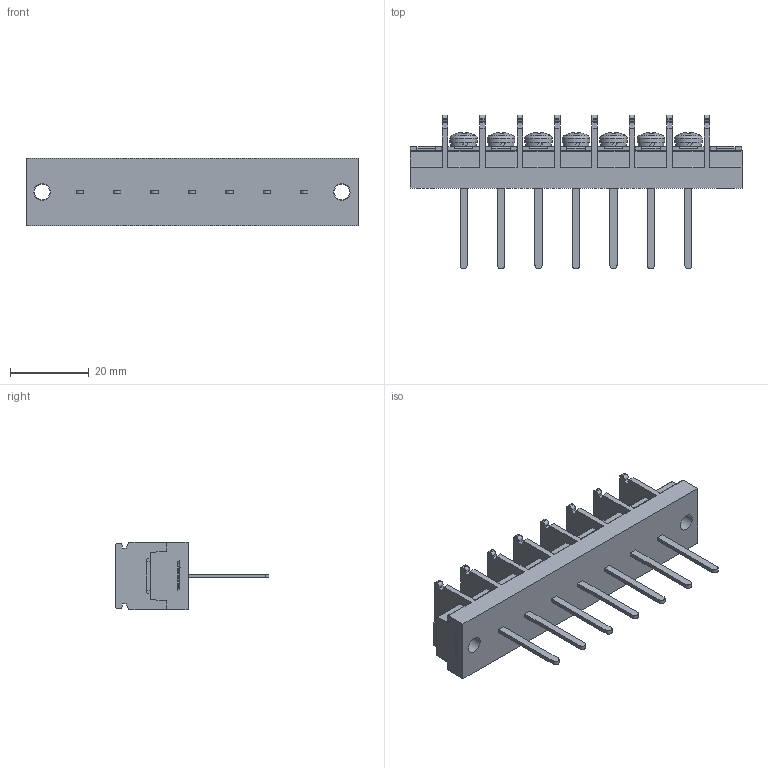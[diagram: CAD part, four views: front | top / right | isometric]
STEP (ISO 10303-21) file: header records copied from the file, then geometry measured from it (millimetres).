
FILE_DESCRIPTION(/* description */ ('Alibre Inc.'),/* implementation_level */ '2;1');
FILE_NAME(/* name */ 'export-54783C2D-5A35-4323-BA3F-5A7B78BFE67D',/* time_stamp */ '2021-02-02T11:22:54+09:00',/* author */ (''),/* organization */ (''),/* preprocessor_version */ 'ST-DEVELOPER v17',/* originating_system */ 'Alibre',/* authorisation */ '');
FILE_SCHEMA (('CONFIG_CONTROL_DESIGN'));
Length unit declared in the file: millimetre
Bounding box: 84.2 x 39 x 17 mm (x, y, z)
Volume: 14968 mm3; surface area: 10209.4 mm2
Topology: 1 solids, 8 shells, 1007 faces, 2759 edges, 1833 vertices
Faces by surface type: plane 722, cylinder 125, bspline 104, cone 35, torus 14, sphere 7
Full cylindrical faces by diameter (mm): 4 x16, 4.2 x2, 6.5 x7, 7 x7
Entity records: 30687 total; most frequent: CARTESIAN_POINT 6603, ORIENTED_EDGE 5366, DIRECTION 3934, EDGE_CURVE 2683, VECTOR 1910, LINE 1910, VERTEX_POINT 1803, AXIS2_PLACEMENT_3D 1362
